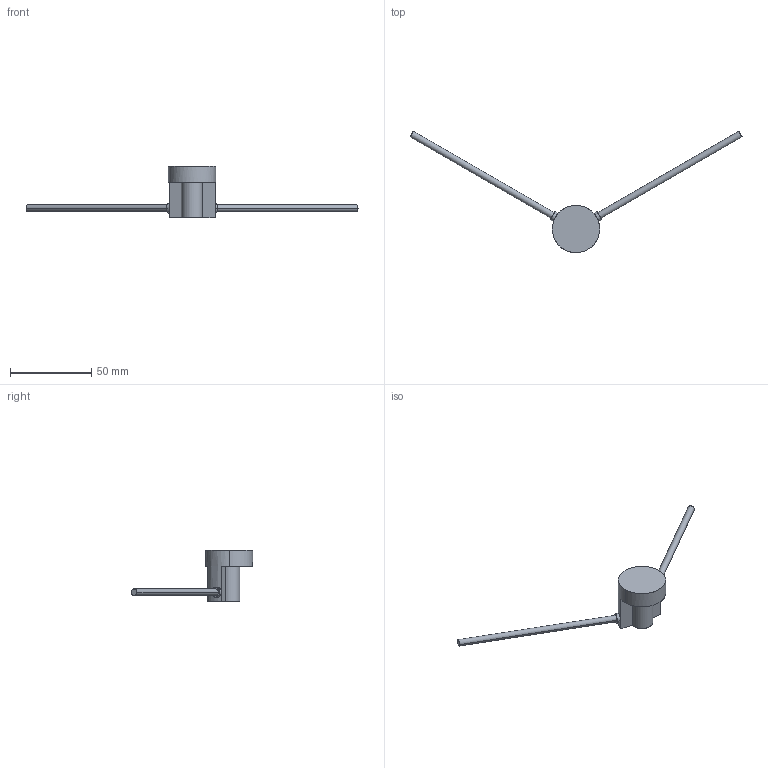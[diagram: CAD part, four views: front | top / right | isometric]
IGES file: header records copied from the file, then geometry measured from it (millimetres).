
Start section: SolidWorks IGES file using analytic representation for surfaces
Global section: file name: C:\Users\Toshiba\Desktop\FU-1PRNA.IGS; native system: SolidWorks 2014; preprocessor: SolidWorks 2014; author: Toshiba; date: 160621.090611; units: metre
Bounding box: 203.78 x 74.48 x 31.9 mm (x, y, z)
Surface area: 6835.1 mm2 (no closed solid volume)
Topology: 0 solids, 0 shells, 26 faces, 487 edges, 487 vertices
Faces by surface type: bspline 14, revolution 12
